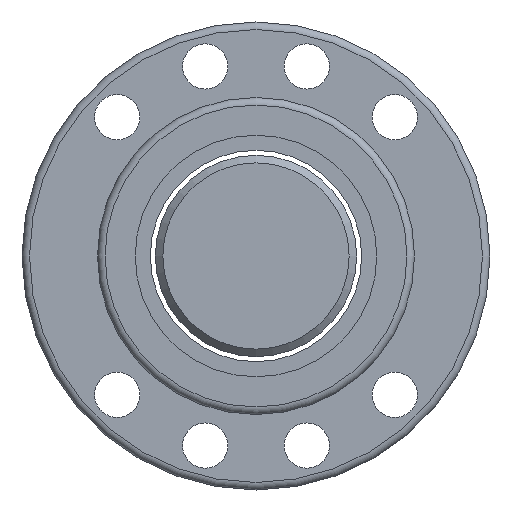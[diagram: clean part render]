
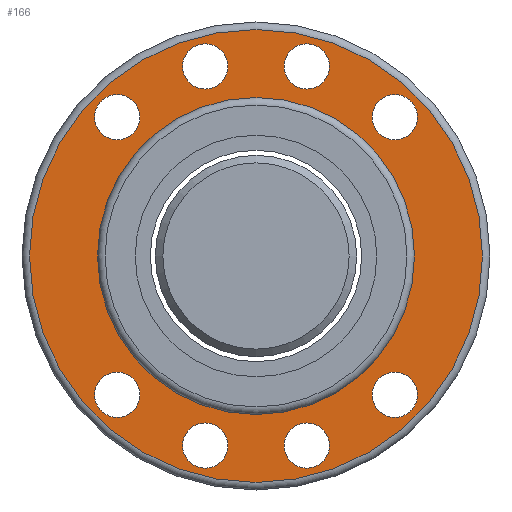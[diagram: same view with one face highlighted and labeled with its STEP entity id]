
A CAD part, left-side view. The second image highlights one B-rep face of the part: STEP entity #166.
In plain terms, the highlighted planar face has unit normal (-1, 0, 0).
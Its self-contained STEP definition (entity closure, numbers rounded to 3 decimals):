
#123=PLANE('',#722);
#140=FACE_OUTER_BOUND('',#347,.T.);
#166=ADVANCED_FACE('',(#241,#242,#243,#244,#245,#246,#247,#248,#140,#249),
#123,.F.);
#241=FACE_BOUND('',#339,.T.);
#242=FACE_BOUND('',#340,.T.);
#243=FACE_BOUND('',#341,.T.);
#244=FACE_BOUND('',#342,.T.);
#245=FACE_BOUND('',#343,.T.);
#246=FACE_BOUND('',#344,.T.);
#247=FACE_BOUND('',#345,.T.);
#248=FACE_BOUND('',#346,.T.);
#249=FACE_BOUND('',#348,.T.);
#339=EDGE_LOOP('',(#445));
#340=EDGE_LOOP('',(#446));
#341=EDGE_LOOP('',(#447));
#342=EDGE_LOOP('',(#448));
#343=EDGE_LOOP('',(#449));
#344=EDGE_LOOP('',(#450));
#345=EDGE_LOOP('',(#451));
#346=EDGE_LOOP('',(#452));
#347=EDGE_LOOP('',(#453));
#348=EDGE_LOOP('',(#454));
#445=ORIENTED_EDGE('',*,*,#588,.T.);
#446=ORIENTED_EDGE('',*,*,#589,.T.);
#447=ORIENTED_EDGE('',*,*,#590,.T.);
#448=ORIENTED_EDGE('',*,*,#591,.T.);
#449=ORIENTED_EDGE('',*,*,#592,.T.);
#450=ORIENTED_EDGE('',*,*,#593,.T.);
#451=ORIENTED_EDGE('',*,*,#594,.T.);
#452=ORIENTED_EDGE('',*,*,#595,.T.);
#453=ORIENTED_EDGE('',*,*,#586,.F.);
#454=ORIENTED_EDGE('',*,*,#596,.T.);
#533=VERTEX_POINT('',#1027);
#535=VERTEX_POINT('',#1032);
#536=VERTEX_POINT('',#1034);
#537=VERTEX_POINT('',#1036);
#538=VERTEX_POINT('',#1038);
#539=VERTEX_POINT('',#1040);
#540=VERTEX_POINT('',#1042);
#541=VERTEX_POINT('',#1044);
#542=VERTEX_POINT('',#1046);
#543=VERTEX_POINT('',#1048);
#586=EDGE_CURVE('',#533,#533,#639,.T.);
#588=EDGE_CURVE('',#535,#535,#641,.T.);
#589=EDGE_CURVE('',#536,#536,#642,.T.);
#590=EDGE_CURVE('',#537,#537,#643,.T.);
#591=EDGE_CURVE('',#538,#538,#644,.T.);
#592=EDGE_CURVE('',#539,#539,#645,.T.);
#593=EDGE_CURVE('',#540,#540,#646,.T.);
#594=EDGE_CURVE('',#541,#541,#647,.T.);
#595=EDGE_CURVE('',#542,#542,#648,.T.);
#596=EDGE_CURVE('',#543,#543,#649,.T.);
#639=CIRCLE('',#710,45.);
#641=CIRCLE('',#713,4.5);
#642=CIRCLE('',#714,4.5);
#643=CIRCLE('',#715,4.5);
#644=CIRCLE('',#716,4.5);
#645=CIRCLE('',#717,4.5);
#646=CIRCLE('',#718,4.5);
#647=CIRCLE('',#719,4.5);
#648=CIRCLE('',#720,4.5);
#649=CIRCLE('',#721,31.5);
#710=AXIS2_PLACEMENT_3D('',#1026,#844,#845);
#713=AXIS2_PLACEMENT_3D('',#1031,#850,#851);
#714=AXIS2_PLACEMENT_3D('',#1033,#852,#853);
#715=AXIS2_PLACEMENT_3D('',#1035,#854,#855);
#716=AXIS2_PLACEMENT_3D('',#1037,#856,#857);
#717=AXIS2_PLACEMENT_3D('',#1039,#858,#859);
#718=AXIS2_PLACEMENT_3D('',#1041,#860,#861);
#719=AXIS2_PLACEMENT_3D('',#1043,#862,#863);
#720=AXIS2_PLACEMENT_3D('',#1045,#864,#865);
#721=AXIS2_PLACEMENT_3D('',#1047,#866,#867);
#722=AXIS2_PLACEMENT_3D('',#1049,#868,#869);
#844=DIRECTION('',(1.,0.,0.));
#845=DIRECTION('',(0.,1.,0.));
#850=DIRECTION('',(1.,0.,0.));
#851=DIRECTION('',(0.,1.,0.));
#852=DIRECTION('',(1.,0.,0.));
#853=DIRECTION('',(0.,1.,0.));
#854=DIRECTION('',(1.,0.,0.));
#855=DIRECTION('',(0.,1.,0.));
#856=DIRECTION('',(1.,0.,0.));
#857=DIRECTION('',(0.,1.,0.));
#858=DIRECTION('',(1.,0.,0.));
#859=DIRECTION('',(0.,1.,0.));
#860=DIRECTION('',(1.,0.,0.));
#861=DIRECTION('',(0.,1.,0.));
#862=DIRECTION('',(1.,0.,0.));
#863=DIRECTION('',(0.,1.,0.));
#864=DIRECTION('',(1.,0.,0.));
#865=DIRECTION('',(0.,1.,0.));
#866=DIRECTION('',(1.,0.,0.));
#867=DIRECTION('',(0.,1.,0.));
#868=DIRECTION('',(1.,0.,0.));
#869=DIRECTION('',(0.,1.,0.));
#1026=CARTESIAN_POINT('',(-34.,0.,0.));
#1027=CARTESIAN_POINT('',(-34.,45.,0.));
#1031=CARTESIAN_POINT('',(-34.,10.09,-37.67));
#1032=CARTESIAN_POINT('',(-34.,14.59,-37.67));
#1033=CARTESIAN_POINT('',(-34.,-10.09,-37.67));
#1034=CARTESIAN_POINT('',(-34.,-5.59,-37.67));
#1035=CARTESIAN_POINT('',(-34.,10.09,37.67));
#1036=CARTESIAN_POINT('',(-34.,14.59,37.67));
#1037=CARTESIAN_POINT('',(-34.,-10.09,37.67));
#1038=CARTESIAN_POINT('',(-34.,-5.59,37.67));
#1039=CARTESIAN_POINT('',(-34.,27.58,-27.58));
#1040=CARTESIAN_POINT('',(-34.,32.08,-27.58));
#1041=CARTESIAN_POINT('',(-34.,-27.58,-27.58));
#1042=CARTESIAN_POINT('',(-34.,-23.08,-27.58));
#1043=CARTESIAN_POINT('',(-34.,-27.58,27.58));
#1044=CARTESIAN_POINT('',(-34.,-23.08,27.58));
#1045=CARTESIAN_POINT('',(-34.,27.58,27.58));
#1046=CARTESIAN_POINT('',(-34.,32.08,27.58));
#1047=CARTESIAN_POINT('',(-34.,0.,0.));
#1048=CARTESIAN_POINT('',(-34.,31.5,0.));
#1049=CARTESIAN_POINT('',(-34.,38.25,0.));
